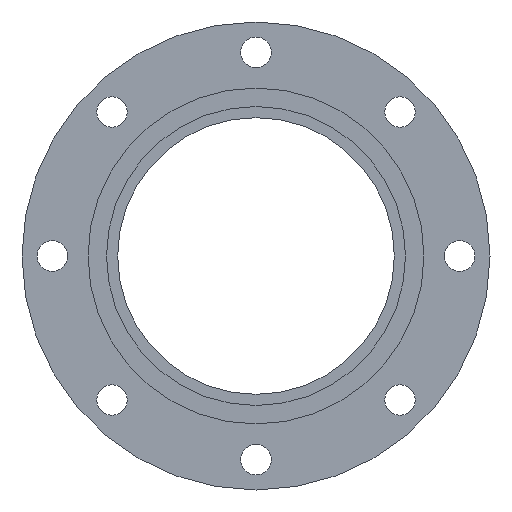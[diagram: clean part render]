
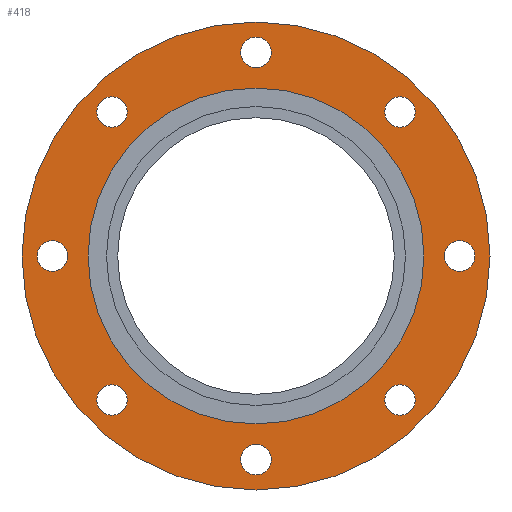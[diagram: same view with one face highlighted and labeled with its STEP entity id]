
A CAD part, left-side view. The second image highlights one B-rep face of the part: STEP entity #418.
In plain terms, the highlighted planar face has unit normal (-1, 0, 0).
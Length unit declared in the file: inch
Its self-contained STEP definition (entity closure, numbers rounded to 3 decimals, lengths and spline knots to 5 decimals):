
#14=FACE_BOUND('',#72,.T.);
#15=FACE_BOUND('',#73,.T.);
#16=FACE_BOUND('',#74,.T.);
#17=FACE_BOUND('',#75,.T.);
#18=FACE_BOUND('',#76,.T.);
#19=FACE_BOUND('',#77,.T.);
#20=FACE_BOUND('',#78,.T.);
#21=FACE_BOUND('',#79,.T.);
#22=FACE_BOUND('',#80,.T.);
#36=PLANE('',#478);
#51=FACE_OUTER_BOUND('',#71,.T.);
#71=EDGE_LOOP('',(#304,#305));
#72=EDGE_LOOP('',(#306));
#73=EDGE_LOOP('',(#307));
#74=EDGE_LOOP('',(#308));
#75=EDGE_LOOP('',(#309));
#76=EDGE_LOOP('',(#310));
#77=EDGE_LOOP('',(#311));
#78=EDGE_LOOP('',(#312));
#79=EDGE_LOOP('',(#313));
#80=EDGE_LOOP('',(#314,#315));
#133=CIRCLE('',#451,0.44);
#135=CIRCLE('',#454,0.44);
#137=CIRCLE('',#457,0.44);
#139=CIRCLE('',#460,0.44);
#141=CIRCLE('',#463,0.44);
#143=CIRCLE('',#466,0.44);
#145=CIRCLE('',#469,0.44);
#147=CIRCLE('',#472,0.44);
#148=CIRCLE('',#474,6.75);
#149=CIRCLE('',#475,6.75);
#152=CIRCLE('',#479,4.845);
#153=CIRCLE('',#480,4.845);
#173=VERTEX_POINT('',#649);
#175=VERTEX_POINT('',#655);
#177=VERTEX_POINT('',#661);
#179=VERTEX_POINT('',#667);
#181=VERTEX_POINT('',#673);
#183=VERTEX_POINT('',#679);
#185=VERTEX_POINT('',#685);
#187=VERTEX_POINT('',#691);
#188=VERTEX_POINT('',#695);
#189=VERTEX_POINT('',#696);
#192=VERTEX_POINT('',#705);
#193=VERTEX_POINT('',#706);
#214=EDGE_CURVE('',#173,#173,#133,.T.);
#217=EDGE_CURVE('',#175,#175,#135,.T.);
#220=EDGE_CURVE('',#177,#177,#137,.T.);
#223=EDGE_CURVE('',#179,#179,#139,.T.);
#226=EDGE_CURVE('',#181,#181,#141,.T.);
#229=EDGE_CURVE('',#183,#183,#143,.T.);
#232=EDGE_CURVE('',#185,#185,#145,.T.);
#235=EDGE_CURVE('',#187,#187,#147,.T.);
#236=EDGE_CURVE('',#188,#189,#148,.T.);
#237=EDGE_CURVE('',#189,#188,#149,.T.);
#241=EDGE_CURVE('',#192,#193,#152,.T.);
#242=EDGE_CURVE('',#193,#192,#153,.T.);
#304=ORIENTED_EDGE('',*,*,#236,.T.);
#305=ORIENTED_EDGE('',*,*,#237,.T.);
#306=ORIENTED_EDGE('',*,*,#214,.T.);
#307=ORIENTED_EDGE('',*,*,#217,.T.);
#308=ORIENTED_EDGE('',*,*,#220,.T.);
#309=ORIENTED_EDGE('',*,*,#223,.T.);
#310=ORIENTED_EDGE('',*,*,#226,.T.);
#311=ORIENTED_EDGE('',*,*,#229,.T.);
#312=ORIENTED_EDGE('',*,*,#232,.T.);
#313=ORIENTED_EDGE('',*,*,#235,.T.);
#314=ORIENTED_EDGE('',*,*,#241,.F.);
#315=ORIENTED_EDGE('',*,*,#242,.F.);
#418=ADVANCED_FACE('',(#51,#14,#15,#16,#17,#18,#19,#20,#21,#22),#36,.T.);
#451=AXIS2_PLACEMENT_3D('',#651,#516,#517);
#454=AXIS2_PLACEMENT_3D('',#657,#523,#524);
#457=AXIS2_PLACEMENT_3D('',#663,#530,#531);
#460=AXIS2_PLACEMENT_3D('',#669,#537,#538);
#463=AXIS2_PLACEMENT_3D('',#675,#544,#545);
#466=AXIS2_PLACEMENT_3D('',#681,#551,#552);
#469=AXIS2_PLACEMENT_3D('',#687,#558,#559);
#472=AXIS2_PLACEMENT_3D('',#693,#565,#566);
#474=AXIS2_PLACEMENT_3D('',#697,#569,#570);
#475=AXIS2_PLACEMENT_3D('',#698,#571,#572);
#478=AXIS2_PLACEMENT_3D('',#704,#578,#579);
#479=AXIS2_PLACEMENT_3D('',#707,#580,#581);
#480=AXIS2_PLACEMENT_3D('',#708,#582,#583);
#516=DIRECTION('center_axis',(1.,0.,0.));
#517=DIRECTION('ref_axis',(0.,-0.707,0.707));
#523=DIRECTION('center_axis',(1.,0.,0.));
#524=DIRECTION('ref_axis',(0.,-1.,0.));
#530=DIRECTION('center_axis',(1.,0.,0.));
#531=DIRECTION('ref_axis',(0.,-0.707,-0.707));
#537=DIRECTION('center_axis',(1.,0.,0.));
#538=DIRECTION('ref_axis',(0.,0.,-1.));
#544=DIRECTION('center_axis',(1.,0.,0.));
#545=DIRECTION('ref_axis',(0.,0.707,-0.707));
#551=DIRECTION('center_axis',(1.,0.,0.));
#552=DIRECTION('ref_axis',(0.,1.,0.));
#558=DIRECTION('center_axis',(1.,0.,0.));
#559=DIRECTION('ref_axis',(0.,0.707,0.707));
#565=DIRECTION('center_axis',(1.,0.,0.));
#566=DIRECTION('ref_axis',(0.,0.,1.));
#569=DIRECTION('center_axis',(-1.,0.,0.));
#570=DIRECTION('ref_axis',(0.,0.,1.));
#571=DIRECTION('center_axis',(-1.,0.,0.));
#572=DIRECTION('ref_axis',(0.,0.,1.));
#578=DIRECTION('center_axis',(-1.,0.,0.));
#579=DIRECTION('ref_axis',(0.,0.,1.));
#580=DIRECTION('center_axis',(-1.,0.,0.));
#581=DIRECTION('ref_axis',(0.,0.,1.));
#582=DIRECTION('center_axis',(-1.,0.,0.));
#583=DIRECTION('ref_axis',(0.,0.,1.));
#649=CARTESIAN_POINT('',(-1.12,4.46538,-4.46538));
#651=CARTESIAN_POINT('Origin',(-1.12,4.15425,-4.15425));
#655=CARTESIAN_POINT('',(-1.12,6.315,0.));
#657=CARTESIAN_POINT('Origin',(-1.12,5.875,0.));
#661=CARTESIAN_POINT('',(-1.12,4.46538,4.46538));
#663=CARTESIAN_POINT('Origin',(-1.12,4.15425,4.15425));
#667=CARTESIAN_POINT('',(-1.12,0.,6.315));
#669=CARTESIAN_POINT('Origin',(-1.12,0.,5.875));
#673=CARTESIAN_POINT('',(-1.12,-4.46538,4.46538));
#675=CARTESIAN_POINT('Origin',(-1.12,-4.15425,4.15425));
#679=CARTESIAN_POINT('',(-1.12,-6.315,0.));
#681=CARTESIAN_POINT('Origin',(-1.12,-5.875,0.));
#685=CARTESIAN_POINT('',(-1.12,-4.46538,-4.46538));
#687=CARTESIAN_POINT('Origin',(-1.12,-4.15425,-4.15425));
#691=CARTESIAN_POINT('',(-1.12,0.,-6.315));
#693=CARTESIAN_POINT('Origin',(-1.12,0.,-5.875));
#695=CARTESIAN_POINT('',(-1.12,0.,6.75));
#696=CARTESIAN_POINT('',(-1.12,0.,-6.75));
#697=CARTESIAN_POINT('Origin',(-1.12,0.,0.));
#698=CARTESIAN_POINT('Origin',(-1.12,0.,0.));
#704=CARTESIAN_POINT('Origin',(-1.12,0.,5.7975));
#705=CARTESIAN_POINT('',(-1.12,0.,4.845));
#706=CARTESIAN_POINT('',(-1.12,0.,-4.845));
#707=CARTESIAN_POINT('Origin',(-1.12,0.,0.));
#708=CARTESIAN_POINT('Origin',(-1.12,0.,0.));
